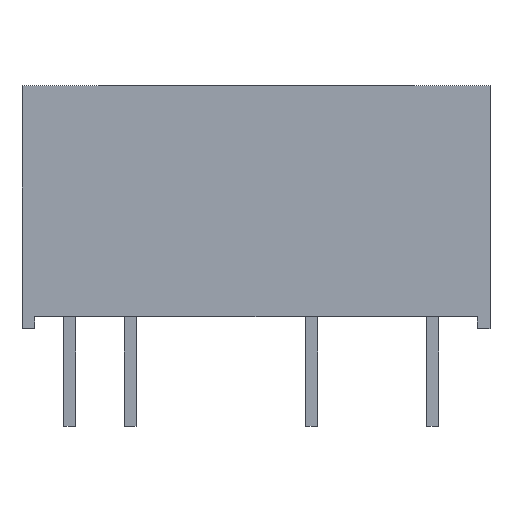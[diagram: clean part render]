
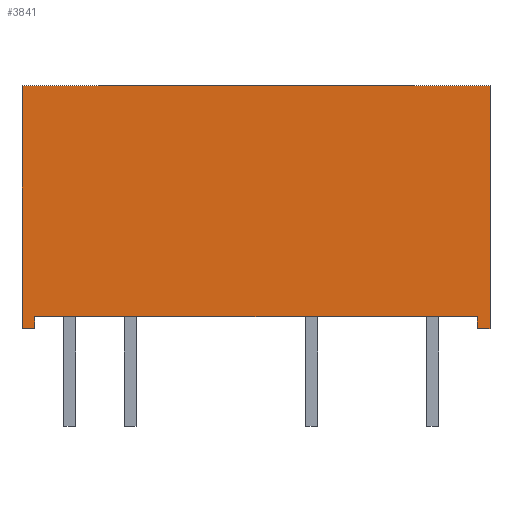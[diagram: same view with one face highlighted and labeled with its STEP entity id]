
A CAD part, top view. The second image highlights one B-rep face of the part: STEP entity #3841.
In plain terms, the highlighted planar face has unit normal (0, 0, 1).
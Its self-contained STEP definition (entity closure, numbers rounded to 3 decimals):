
#3370 = VERTEX_POINT('',#3371);
#3371 = CARTESIAN_POINT('',(-9.825,9.7,3.));
#3377 = EDGE_CURVE('',#3378,#3370,#3380,.T.);
#3378 = VERTEX_POINT('',#3379);
#3379 = CARTESIAN_POINT('',(9.825,9.7,3.));
#3380 = LINE('',#3381,#3382);
#3381 = CARTESIAN_POINT('',(9.825,9.7,3.));
#3382 = VECTOR('',#3383,1.);
#3383 = DIRECTION('',(-1.,0.,0.));
#3725 = VERTEX_POINT('',#3726);
#3726 = CARTESIAN_POINT('',(9.3,0.,3.));
#3732 = EDGE_CURVE('',#3733,#3725,#3735,.T.);
#3733 = VERTEX_POINT('',#3734);
#3734 = CARTESIAN_POINT('',(-9.3,0.,3.));
#3735 = LINE('',#3736,#3737);
#3736 = CARTESIAN_POINT('',(-9.3,0.,3.));
#3737 = VECTOR('',#3738,1.);
#3738 = DIRECTION('',(1.,0.,0.));
#3759 = EDGE_CURVE('',#3760,#3733,#3762,.T.);
#3760 = VERTEX_POINT('',#3761);
#3761 = CARTESIAN_POINT('',(-9.3,-0.5,3.));
#3762 = LINE('',#3763,#3764);
#3763 = CARTESIAN_POINT('',(-9.3,-0.5,3.));
#3764 = VECTOR('',#3765,1.);
#3765 = DIRECTION('',(0.,1.,0.));
#3783 = EDGE_CURVE('',#3784,#3760,#3786,.T.);
#3784 = VERTEX_POINT('',#3785);
#3785 = CARTESIAN_POINT('',(-9.825,-0.5,3.));
#3786 = LINE('',#3787,#3788);
#3787 = CARTESIAN_POINT('',(-9.825,-0.5,3.));
#3788 = VECTOR('',#3789,1.);
#3789 = DIRECTION('',(1.,0.,0.));
#3807 = EDGE_CURVE('',#3370,#3784,#3808,.T.);
#3808 = LINE('',#3809,#3810);
#3809 = CARTESIAN_POINT('',(-9.825,9.7,3.));
#3810 = VECTOR('',#3811,1.);
#3811 = DIRECTION('',(0.,-1.,0.));
#3841 = ADVANCED_FACE('',(#3842),#3871,.T.);
#3842 = FACE_BOUND('',#3843,.T.);
#3843 = EDGE_LOOP('',(#3844,#3845,#3846,#3847,#3848,#3849,#3857,#3865));
#3844 = ORIENTED_EDGE('',*,*,#3377,.T.);
#3845 = ORIENTED_EDGE('',*,*,#3807,.T.);
#3846 = ORIENTED_EDGE('',*,*,#3783,.T.);
#3847 = ORIENTED_EDGE('',*,*,#3759,.T.);
#3848 = ORIENTED_EDGE('',*,*,#3732,.T.);
#3849 = ORIENTED_EDGE('',*,*,#3850,.T.);
#3850 = EDGE_CURVE('',#3725,#3851,#3853,.T.);
#3851 = VERTEX_POINT('',#3852);
#3852 = CARTESIAN_POINT('',(9.3,-0.5,3.));
#3853 = LINE('',#3854,#3855);
#3854 = CARTESIAN_POINT('',(9.3,0.,3.));
#3855 = VECTOR('',#3856,1.);
#3856 = DIRECTION('',(0.,-1.,0.));
#3857 = ORIENTED_EDGE('',*,*,#3858,.T.);
#3858 = EDGE_CURVE('',#3851,#3859,#3861,.T.);
#3859 = VERTEX_POINT('',#3860);
#3860 = CARTESIAN_POINT('',(9.825,-0.5,3.));
#3861 = LINE('',#3862,#3863);
#3862 = CARTESIAN_POINT('',(9.3,-0.5,3.));
#3863 = VECTOR('',#3864,1.);
#3864 = DIRECTION('',(1.,0.,0.));
#3865 = ORIENTED_EDGE('',*,*,#3866,.T.);
#3866 = EDGE_CURVE('',#3859,#3378,#3867,.T.);
#3867 = LINE('',#3868,#3869);
#3868 = CARTESIAN_POINT('',(9.825,-0.5,3.));
#3869 = VECTOR('',#3870,1.);
#3870 = DIRECTION('',(0.,1.,0.));
#3871 = PLANE('',#3872);
#3872 = AXIS2_PLACEMENT_3D('',#3873,#3874,#3875);
#3873 = CARTESIAN_POINT('',(-5.029,4.716,3.));
#3874 = DIRECTION('',(0.,0.,1.));
#3875 = DIRECTION('',(1.,0.,-0.));
